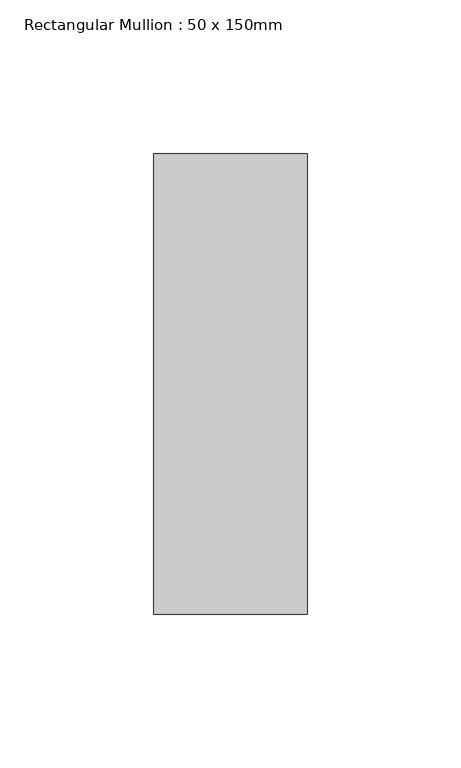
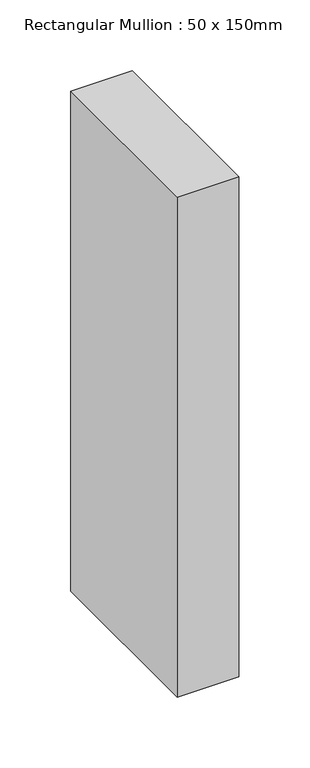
"""IFC4 building model written with IfcOpenShell, lengths in millimetres: member geometry, Rectangular Mullion : 50 x 150mm."""

from ifc_helpers import new_model, si_unit, frame, origin, place, context, project, spatial, polyline, outline, extrude, source, transform, mapped, element, save


def rectangular_mullion_50_x_150mm_daea3674(model_context):
    return source(origin(), model_context, "Body", "SweptSolid", [
        extrude(outline(polyline([(0.0, 75.0), (0.0, -75.0), (-50.0, -75.0), (-50.0, 75.0), (0.0, 75.0)])), frame((0.0, 0.0, -430.0), z_axis=(0.0, 0.0, 1.0), x_axis=(1.0, 0.0, 0.0)), (0.0, 0.0, 1.0), 430.0),
    ])


if __name__ == "__main__":
    model = new_model("IFC4")
    model_context = context("Model", 3, world=origin())
    ifc_project = project(units=[si_unit("LENGTHUNIT", "METRE", prefix="MILLI")], contexts=[model_context])
    site = spatial("IfcSite", under=ifc_project)
    building = spatial("IfcBuilding", under=site)
    placement = place(None, origin())
    rectangular_mullion_50_x_150mm_shape = rectangular_mullion_50_x_150mm_daea3674(model_context)
    element("IfcMember", 1, ObjectType="Rectangular Mullion : 50 x 150mm", at=placement, inside=building, context=model_context, shape_type="MappedRepresentation", body=[
        mapped(rectangular_mullion_50_x_150mm_shape, transform((0.0, 0.0, 0.0), x_axis=(1.0, 0.0, 0.0), y_axis=(0.0, 1.0, 0.0), z_axis=(0.0, 0.0, 1.0))),
    ])
    save(model, "model.ifc")
